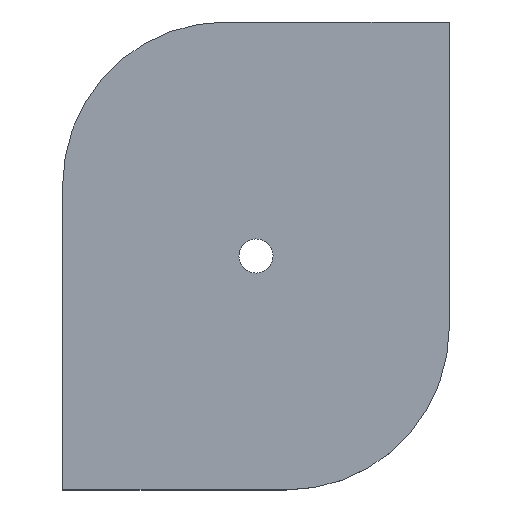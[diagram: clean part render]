
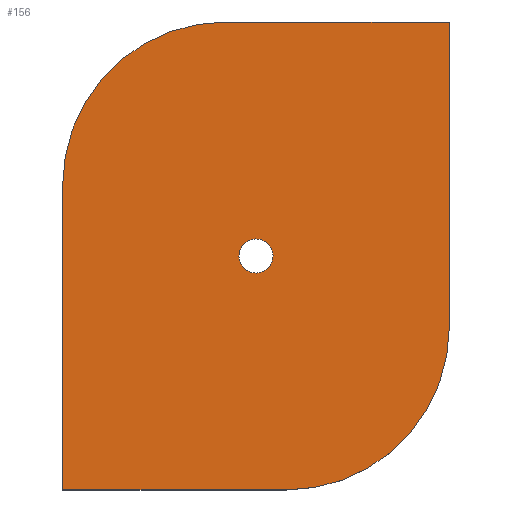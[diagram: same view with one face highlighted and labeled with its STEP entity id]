
A CAD part, top view. The second image highlights one B-rep face of the part: STEP entity #156.
In plain terms, the highlighted planar face has unit normal (0, 0, 1).
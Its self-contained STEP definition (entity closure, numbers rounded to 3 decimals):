
#63=CARTESIAN_POINT('Vertex',(43.825,59.508,10.)) ;
#77=CARTESIAN_POINT('Vertex',(51.175,55.492,10.)) ;
#80=CARTESIAN_POINT('Axis2P3D Location',(47.5,57.5,10.)) ;
#92=CARTESIAN_POINT('Axis2P3D Location',(0.,0.,10.)) ;
#97=CARTESIAN_POINT('Line Origine',(0.,37.5,10.)) ;
#101=CARTESIAN_POINT('Vertex',(0.,75.,10.)) ;
#103=CARTESIAN_POINT('Vertex',(0.,0.,10.)) ;
#106=CARTESIAN_POINT('Line Origine',(27.5,0.,10.)) ;
#110=CARTESIAN_POINT('Vertex',(55.,0.,10.)) ;
#113=CARTESIAN_POINT('Axis2P3D Location',(55.,40.,10.)) ;
#117=CARTESIAN_POINT('Vertex',(95.,40.,10.)) ;
#120=CARTESIAN_POINT('Line Origine',(95.,77.5,10.)) ;
#124=CARTESIAN_POINT('Vertex',(95.,115.,10.)) ;
#127=CARTESIAN_POINT('Line Origine',(67.5,115.,10.)) ;
#131=CARTESIAN_POINT('Vertex',(40.,115.,10.)) ;
#134=CARTESIAN_POINT('Axis2P3D Location',(40.,75.,10.)) ;
#147=CARTESIAN_POINT('Axis2P3D Location',(47.5,57.5,10.)) ;
#81=DIRECTION('Axis2P3D Direction',(0.,-0.,-1.)) ;
#93=DIRECTION('Axis2P3D Direction',(0.,0.,1.)) ;
#94=DIRECTION('Axis2P3D XDirection',(1.,0.,0.)) ;
#98=DIRECTION('Vector Direction',(0.,-1.,0.)) ;
#107=DIRECTION('Vector Direction',(1.,0.,0.)) ;
#114=DIRECTION('Axis2P3D Direction',(0.,0.,1.)) ;
#121=DIRECTION('Vector Direction',(0.,1.,0.)) ;
#128=DIRECTION('Vector Direction',(-1.,0.,0.)) ;
#135=DIRECTION('Axis2P3D Direction',(0.,0.,1.)) ;
#148=DIRECTION('Axis2P3D Direction',(0.,0.,1.)) ;
#82=AXIS2_PLACEMENT_3D('Circle Axis2P3D',#80,#81,$) ;
#95=AXIS2_PLACEMENT_3D('Plane Axis2P3D',#92,#93,#94) ;
#115=AXIS2_PLACEMENT_3D('Circle Axis2P3D',#113,#114,$) ;
#136=AXIS2_PLACEMENT_3D('Circle Axis2P3D',#134,#135,$) ;
#149=AXIS2_PLACEMENT_3D('Circle Axis2P3D',#147,#148,$) ;
#140=ORIENTED_EDGE('',*,*,#105,.T.) ;
#141=ORIENTED_EDGE('',*,*,#112,.T.) ;
#142=ORIENTED_EDGE('',*,*,#119,.F.) ;
#143=ORIENTED_EDGE('',*,*,#126,.T.) ;
#144=ORIENTED_EDGE('',*,*,#133,.T.) ;
#145=ORIENTED_EDGE('',*,*,#138,.F.) ;
#153=ORIENTED_EDGE('',*,*,#151,.F.) ;
#154=ORIENTED_EDGE('',*,*,#84,.F.) ;
#155=FACE_BOUND('',#152,.T.) ;
#99=VECTOR('Line Direction',#98,1.) ;
#108=VECTOR('Line Direction',#107,1.) ;
#122=VECTOR('Line Direction',#121,1.) ;
#129=VECTOR('Line Direction',#128,1.) ;
#156=ADVANCED_FACE('PartBody',(#146,#155),#96,.T.) ;
#83=CIRCLE('generated circle',#82,4.188) ;
#116=CIRCLE('generated circle',#115,40.) ;
#137=CIRCLE('generated circle',#136,40.) ;
#150=CIRCLE('generated circle',#149,4.188) ;
#84=EDGE_CURVE('',#78,#64,#83,.F.) ;
#105=EDGE_CURVE('',#102,#104,#100,.T.) ;
#112=EDGE_CURVE('',#104,#111,#109,.T.) ;
#119=EDGE_CURVE('',#118,#111,#116,.F.) ;
#126=EDGE_CURVE('',#118,#125,#123,.T.) ;
#133=EDGE_CURVE('',#125,#132,#130,.T.) ;
#138=EDGE_CURVE('',#102,#132,#137,.F.) ;
#151=EDGE_CURVE('',#64,#78,#150,.T.) ;
#139=EDGE_LOOP('',(#140,#141,#142,#143,#144,#145)) ;
#152=EDGE_LOOP('',(#153,#154)) ;
#146=FACE_OUTER_BOUND('',#139,.T.) ;
#100=LINE('Line',#97,#99) ;
#109=LINE('Line',#106,#108) ;
#123=LINE('Line',#120,#122) ;
#130=LINE('Line',#127,#129) ;
#96=PLANE('',#95) ;
#64=VERTEX_POINT('',#63) ;
#78=VERTEX_POINT('',#77) ;
#102=VERTEX_POINT('',#101) ;
#104=VERTEX_POINT('',#103) ;
#111=VERTEX_POINT('',#110) ;
#118=VERTEX_POINT('',#117) ;
#125=VERTEX_POINT('',#124) ;
#132=VERTEX_POINT('',#131) ;
